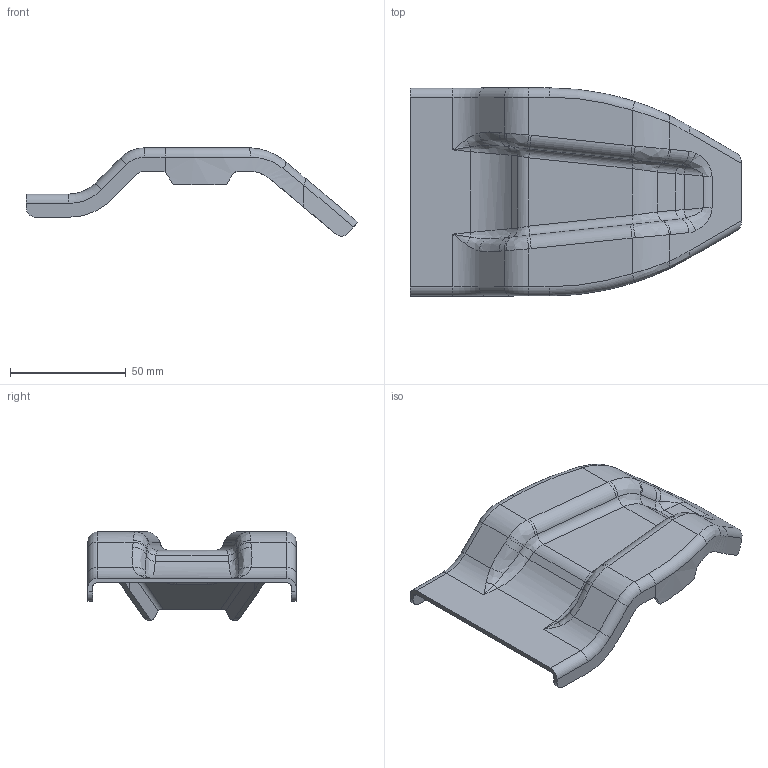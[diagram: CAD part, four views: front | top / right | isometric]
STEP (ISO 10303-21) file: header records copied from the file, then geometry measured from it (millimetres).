
FILE_DESCRIPTION(/* description */ (''),/* implementation_level */ '2;1');
FILE_NAME(/* name */ 'SM9-3 multi-stage forming.stp',/* time_stamp */ '2026-06-09T12:42:14+02:00',/* author */ ('learnNX'),/* organization */ ('learnNX'),/* preprocessor_version */ 'ST-DEVELOPER v20.1',/* originating_system */ 'SIEMENS PLM Software NX2512.3002',/* authorisation */ '');
FILE_SCHEMA (('AUTOMOTIVE_DESIGN { 1 0 10303 214 3 1 1 1 }'));
Length unit declared in the file: millimetre
Products named in the file (1): SM9-3 multi-stage forming_objects
Bounding box: 143.3 x 90 x 38.16 mm (x, y, z)
Volume: 30988.6 mm3; surface area: 31946.1 mm2
Topology: 1 solids, 1 shells, 220 faces, 526 edges, 304 vertices
Faces by surface type: cylinder 86, bspline 74, plane 46, torus 12, extrusion 2
Entity records: 7122 total; most frequent: CARTESIAN_POINT 2379, ORIENTED_EDGE 1044, DIRECTION 940, EDGE_CURVE 522, AXIS2_PLACEMENT_3D 375, VERTEX_POINT 304, ADVANCED_FACE 220, FACE_OUTER_BOUND 220
